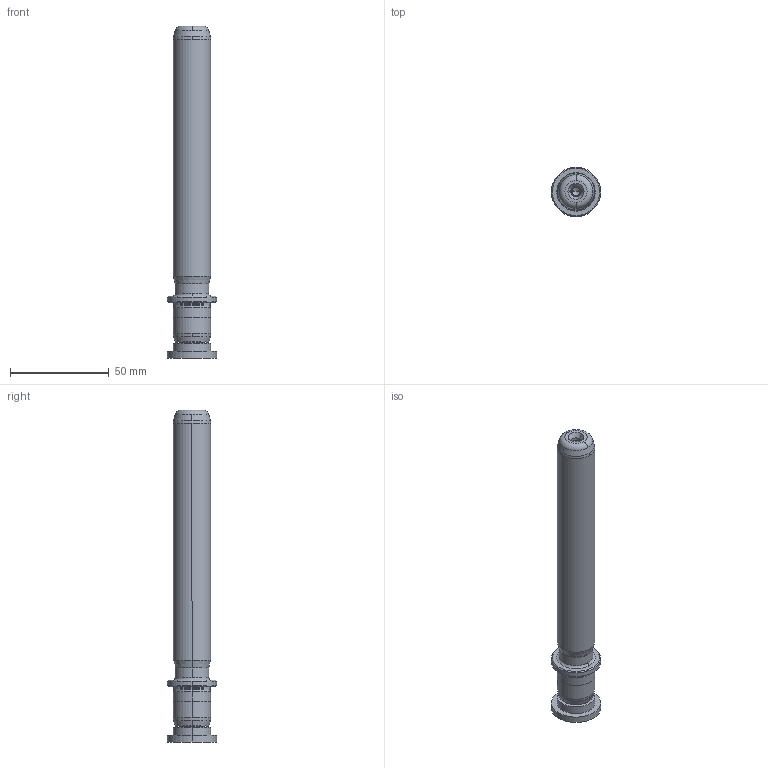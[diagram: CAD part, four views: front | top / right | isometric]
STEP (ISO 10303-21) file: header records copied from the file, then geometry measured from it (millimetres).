
FILE_DESCRIPTION((''),'2;1');
FILE_NAME('P22_019_140.stp','2009-02-02T11:04:17',(''),(''),'Mechanical Desktop 2009','Mechanical Desktop 2009',', , ');
FILE_SCHEMA(('CONFIG_CONTROL_DESIGN'));
Length unit declared in the file: millimetre
Products named in the file (2): Product; blmdl1
Assembly tree (1 placements, depth 2):
  Product
    blmdl1
Bounding box: 25 x 25 x 168 mm (x, y, z)
Volume: 47396.4 mm3; surface area: 12939.9 mm2
Topology: 3 solids, 3 shells, 99 faces, 237 edges, 149 vertices
Faces by surface type: cylinder 32, cone 28, plane 19, bspline 14, torus 6
Entity records: 3507 total; most frequent: CARTESIAN_POINT 1027, DIRECTION 562, ORIENTED_EDGE 466, AXIS2_PLACEMENT_3D 242, EDGE_CURVE 233, CIRCLE 155, VERTEX_POINT 149, EDGE_LOOP 110
